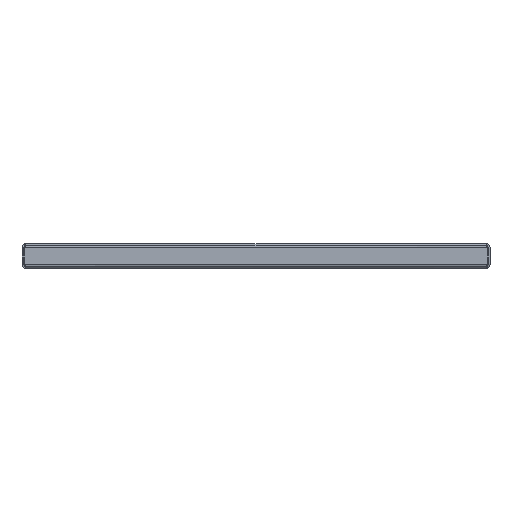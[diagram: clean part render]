
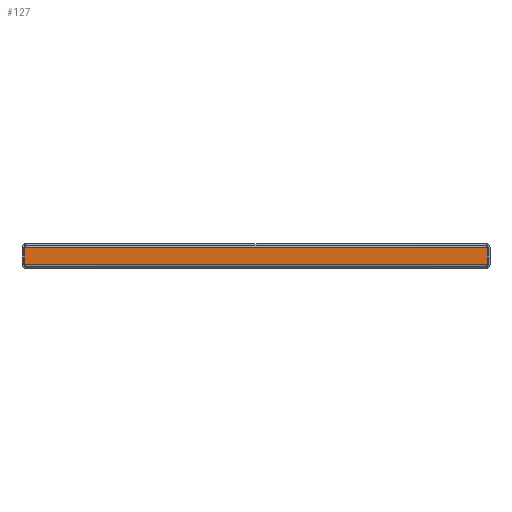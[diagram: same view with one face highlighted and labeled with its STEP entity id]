
A CAD part, front view. The second image highlights one B-rep face of the part: STEP entity #127.
In plain terms, the highlighted planar face has unit normal (0, -1, 0).
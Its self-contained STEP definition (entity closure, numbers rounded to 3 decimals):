
#127=ADVANCED_FACE('',(#1219),#1221,.F.);
#1219=FACE_BOUND('',#1220,.T.);
#1220=EDGE_LOOP('',(#2261,#2262,#2263,#2264));
#1221=PLANE('',#1222);
#1222=AXIS2_PLACEMENT_3D('',#1223,#1224,#1225);
#1223=CARTESIAN_POINT('',(0.,-866.5,0.));
#1224=DIRECTION('',(0.,1.,0.));
#1225=DIRECTION('',(0.,0.,1.));
#2261=ORIENTED_EDGE('',*,*,#2707,.F.);
#2262=ORIENTED_EDGE('',*,*,#2709,.F.);
#2263=ORIENTED_EDGE('',*,*,#2710,.F.);
#2264=ORIENTED_EDGE('',*,*,#2711,.F.);
#2707=EDGE_CURVE('',#3140,#3134,#3143,.T.);
#2709=EDGE_CURVE('',#3145,#3140,#3146,.T.);
#2710=EDGE_CURVE('',#3147,#3145,#3148,.T.);
#2711=EDGE_CURVE('',#3134,#3147,#3149,.T.);
#3134=VERTEX_POINT('',#4704);
#3140=VERTEX_POINT('',#4877);
#3143=LINE('',#4939,#4940);
#3145=VERTEX_POINT('',#4945);
#3146=LINE('',#4946,#4947);
#3147=VERTEX_POINT('',#4949);
#3148=LINE('',#4950,#4951);
#3149=LINE('',#4953,#4954);
#4704=CARTESIAN_POINT('',(236.823,-866.5,-4.));
#4877=CARTESIAN_POINT('',(-236.823,-866.5,-4.));
#4939=CARTESIAN_POINT('',(-236.823,-866.5,-4.));
#4940=VECTOR('',#4941,1.);
#4941=DIRECTION('',(1.,0.,0.));
#4945=CARTESIAN_POINT('',(-236.823,-866.5,-21.));
#4946=CARTESIAN_POINT('',(-236.823,-866.5,-21.));
#4947=VECTOR('',#4948,1.);
#4948=DIRECTION('',(0.,0.,1.));
#4949=CARTESIAN_POINT('',(236.823,-866.5,-21.));
#4950=CARTESIAN_POINT('',(236.823,-866.5,-21.));
#4951=VECTOR('',#4952,1.);
#4952=DIRECTION('',(-1.,0.,0.));
#4953=CARTESIAN_POINT('',(236.823,-866.5,-4.));
#4954=VECTOR('',#4955,1.);
#4955=DIRECTION('',(0.,0.,-1.));
